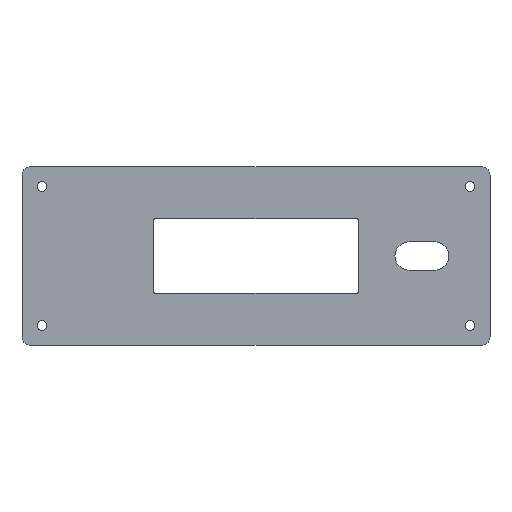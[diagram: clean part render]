
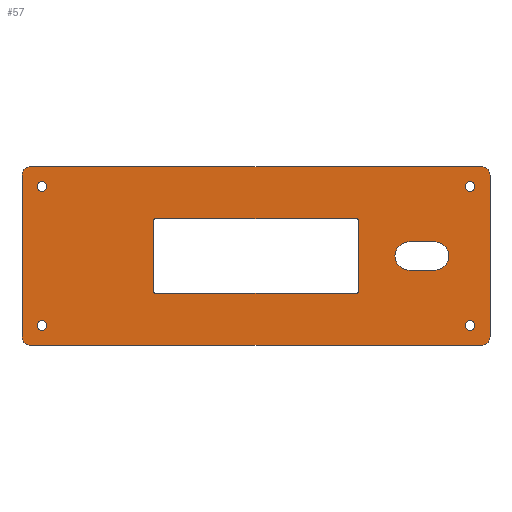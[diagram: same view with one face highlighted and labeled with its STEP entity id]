
A CAD part, top view. The second image highlights one B-rep face of the part: STEP entity #57.
In plain terms, the highlighted planar face has unit normal (0, 0, 1).
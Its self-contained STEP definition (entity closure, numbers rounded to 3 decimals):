
#21 = EDGE_CURVE('',#22,#24,#26,.T.);
#22 = VERTEX_POINT('',#23);
#23 = CARTESIAN_POINT('',(-2.5,0.5,54.5));
#24 = VERTEX_POINT('',#25);
#25 = CARTESIAN_POINT('',(-2.5,57.5,54.5));
#26 = LINE('',#27,#28);
#27 = CARTESIAN_POINT('',(-2.5,-2.5,54.5));
#28 = VECTOR('',#29,1.);
#29 = DIRECTION('',(-0.,1.,0.));
#57 = ADVANCED_FACE('',(#58,#119,#130,#141,#211,#247,#258),#269,.T.);
#58 = FACE_BOUND('',#59,.T.);
#59 = EDGE_LOOP('',(#60,#61,#70,#78,#87,#95,#104,#112));
#60 = ORIENTED_EDGE('',*,*,#21,.F.);
#61 = ORIENTED_EDGE('',*,*,#62,.T.);
#62 = EDGE_CURVE('',#22,#63,#65,.T.);
#63 = VERTEX_POINT('',#64);
#64 = CARTESIAN_POINT('',(0.5,-2.5,54.5));
#65 = CIRCLE('',#66,3.);
#66 = AXIS2_PLACEMENT_3D('',#67,#68,#69);
#67 = CARTESIAN_POINT('',(0.5,0.5,54.5));
#68 = DIRECTION('',(0.,0.,1.));
#69 = DIRECTION('',(0.,-1.,0.));
#70 = ORIENTED_EDGE('',*,*,#71,.T.);
#71 = EDGE_CURVE('',#63,#72,#74,.T.);
#72 = VERTEX_POINT('',#73);
#73 = CARTESIAN_POINT('',(159.5,-2.5,54.5));
#74 = LINE('',#75,#76);
#75 = CARTESIAN_POINT('',(-2.5,-2.5,54.5));
#76 = VECTOR('',#77,1.);
#77 = DIRECTION('',(1.,0.,-0.));
#78 = ORIENTED_EDGE('',*,*,#79,.F.);
#79 = EDGE_CURVE('',#80,#72,#82,.T.);
#80 = VERTEX_POINT('',#81);
#81 = CARTESIAN_POINT('',(162.5,0.5,54.5));
#82 = CIRCLE('',#83,3.);
#83 = AXIS2_PLACEMENT_3D('',#84,#85,#86);
#84 = CARTESIAN_POINT('',(159.5,0.5,54.5));
#85 = DIRECTION('',(-0.,-0.,-1.));
#86 = DIRECTION('',(0.,-1.,0.));
#87 = ORIENTED_EDGE('',*,*,#88,.T.);
#88 = EDGE_CURVE('',#80,#89,#91,.T.);
#89 = VERTEX_POINT('',#90);
#90 = CARTESIAN_POINT('',(162.5,57.5,54.5));
#91 = LINE('',#92,#93);
#92 = CARTESIAN_POINT('',(162.5,-2.5,54.5));
#93 = VECTOR('',#94,1.);
#94 = DIRECTION('',(-0.,1.,0.));
#95 = ORIENTED_EDGE('',*,*,#96,.T.);
#96 = EDGE_CURVE('',#89,#97,#99,.T.);
#97 = VERTEX_POINT('',#98);
#98 = CARTESIAN_POINT('',(159.5,60.5,54.5));
#99 = CIRCLE('',#100,3.);
#100 = AXIS2_PLACEMENT_3D('',#101,#102,#103);
#101 = CARTESIAN_POINT('',(159.5,57.5,54.5));
#102 = DIRECTION('',(0.,0.,1.));
#103 = DIRECTION('',(0.,-1.,0.));
#104 = ORIENTED_EDGE('',*,*,#105,.F.);
#105 = EDGE_CURVE('',#106,#97,#108,.T.);
#106 = VERTEX_POINT('',#107);
#107 = CARTESIAN_POINT('',(0.5,60.5,54.5));
#108 = LINE('',#109,#110);
#109 = CARTESIAN_POINT('',(-2.5,60.5,54.5));
#110 = VECTOR('',#111,1.);
#111 = DIRECTION('',(1.,0.,-0.));
#112 = ORIENTED_EDGE('',*,*,#113,.F.);
#113 = EDGE_CURVE('',#24,#106,#114,.T.);
#114 = CIRCLE('',#115,3.);
#115 = AXIS2_PLACEMENT_3D('',#116,#117,#118);
#116 = CARTESIAN_POINT('',(0.5,57.5,54.5));
#117 = DIRECTION('',(-0.,-0.,-1.));
#118 = DIRECTION('',(0.,-1.,0.));
#119 = FACE_BOUND('',#120,.T.);
#120 = EDGE_LOOP('',(#121));
#121 = ORIENTED_EDGE('',*,*,#122,.F.);
#122 = EDGE_CURVE('',#123,#123,#125,.T.);
#123 = VERTEX_POINT('',#124);
#124 = CARTESIAN_POINT('',(6.2,4.5,54.5));
#125 = CIRCLE('',#126,1.7);
#126 = AXIS2_PLACEMENT_3D('',#127,#128,#129);
#127 = CARTESIAN_POINT('',(4.5,4.5,54.5));
#128 = DIRECTION('',(0.,0.,1.));
#129 = DIRECTION('',(1.,0.,-0.));
#130 = FACE_BOUND('',#131,.T.);
#131 = EDGE_LOOP('',(#132));
#132 = ORIENTED_EDGE('',*,*,#133,.F.);
#133 = EDGE_CURVE('',#134,#134,#136,.T.);
#134 = VERTEX_POINT('',#135);
#135 = CARTESIAN_POINT('',(157.2,4.5,54.5));
#136 = CIRCLE('',#137,1.7);
#137 = AXIS2_PLACEMENT_3D('',#138,#139,#140);
#138 = CARTESIAN_POINT('',(155.5,4.5,54.5));
#139 = DIRECTION('',(0.,0.,1.));
#140 = DIRECTION('',(1.,0.,-0.));
#141 = FACE_BOUND('',#142,.T.);
#142 = EDGE_LOOP('',(#143,#154,#162,#171,#179,#188,#196,#205));
#143 = ORIENTED_EDGE('',*,*,#144,.F.);
#144 = EDGE_CURVE('',#145,#147,#149,.T.);
#145 = VERTEX_POINT('',#146);
#146 = CARTESIAN_POINT('',(43.7,16.8,54.5));
#147 = VERTEX_POINT('',#148);
#148 = CARTESIAN_POINT('',(44.7,15.8,54.5));
#149 = CIRCLE('',#150,1.);
#150 = AXIS2_PLACEMENT_3D('',#151,#152,#153);
#151 = CARTESIAN_POINT('',(44.7,16.8,54.5));
#152 = DIRECTION('',(0.,0.,1.));
#153 = DIRECTION('',(-1.,-0.,0.));
#154 = ORIENTED_EDGE('',*,*,#155,.T.);
#155 = EDGE_CURVE('',#145,#156,#158,.T.);
#156 = VERTEX_POINT('',#157);
#157 = CARTESIAN_POINT('',(43.7,41.2,54.5));
#158 = LINE('',#159,#160);
#159 = CARTESIAN_POINT('',(43.7,6.65,54.5));
#160 = VECTOR('',#161,1.);
#161 = DIRECTION('',(-0.,1.,0.));
#162 = ORIENTED_EDGE('',*,*,#163,.F.);
#163 = EDGE_CURVE('',#164,#156,#166,.T.);
#164 = VERTEX_POINT('',#165);
#165 = CARTESIAN_POINT('',(44.7,42.2,54.5));
#166 = CIRCLE('',#167,1.);
#167 = AXIS2_PLACEMENT_3D('',#168,#169,#170);
#168 = CARTESIAN_POINT('',(44.7,41.2,54.5));
#169 = DIRECTION('',(0.,0.,1.));
#170 = DIRECTION('',(-1.,-0.,0.));
#171 = ORIENTED_EDGE('',*,*,#172,.F.);
#172 = EDGE_CURVE('',#173,#164,#175,.T.);
#173 = VERTEX_POINT('',#174);
#174 = CARTESIAN_POINT('',(115.3,42.2,54.5));
#175 = LINE('',#176,#177);
#176 = CARTESIAN_POINT('',(20.6,42.2,54.5));
#177 = VECTOR('',#178,1.);
#178 = DIRECTION('',(-1.,-0.,0.));
#179 = ORIENTED_EDGE('',*,*,#180,.F.);
#180 = EDGE_CURVE('',#181,#173,#183,.T.);
#181 = VERTEX_POINT('',#182);
#182 = CARTESIAN_POINT('',(116.3,41.2,54.5));
#183 = CIRCLE('',#184,1.);
#184 = AXIS2_PLACEMENT_3D('',#185,#186,#187);
#185 = CARTESIAN_POINT('',(115.3,41.2,54.5));
#186 = DIRECTION('',(0.,0.,1.));
#187 = DIRECTION('',(1.,0.,-0.));
#188 = ORIENTED_EDGE('',*,*,#189,.F.);
#189 = EDGE_CURVE('',#190,#181,#192,.T.);
#190 = VERTEX_POINT('',#191);
#191 = CARTESIAN_POINT('',(116.3,16.8,54.5));
#192 = LINE('',#193,#194);
#193 = CARTESIAN_POINT('',(116.3,6.65,54.5));
#194 = VECTOR('',#195,1.);
#195 = DIRECTION('',(-0.,1.,0.));
#196 = ORIENTED_EDGE('',*,*,#197,.F.);
#197 = EDGE_CURVE('',#198,#190,#200,.T.);
#198 = VERTEX_POINT('',#199);
#199 = CARTESIAN_POINT('',(115.3,15.8,54.5));
#200 = CIRCLE('',#201,1.);
#201 = AXIS2_PLACEMENT_3D('',#202,#203,#204);
#202 = CARTESIAN_POINT('',(115.3,16.8,54.5));
#203 = DIRECTION('',(0.,0.,1.));
#204 = DIRECTION('',(1.,0.,-0.));
#205 = ORIENTED_EDGE('',*,*,#206,.T.);
#206 = EDGE_CURVE('',#198,#147,#207,.T.);
#207 = LINE('',#208,#209);
#208 = CARTESIAN_POINT('',(20.6,15.8,54.5));
#209 = VECTOR('',#210,1.);
#210 = DIRECTION('',(-1.,-0.,0.));
#211 = FACE_BOUND('',#212,.T.);
#212 = EDGE_LOOP('',(#213,#224,#232,#241));
#213 = ORIENTED_EDGE('',*,*,#214,.F.);
#214 = EDGE_CURVE('',#215,#217,#219,.T.);
#215 = VERTEX_POINT('',#216);
#216 = CARTESIAN_POINT('',(134.,34.,54.5));
#217 = VERTEX_POINT('',#218);
#218 = CARTESIAN_POINT('',(134.,24.,54.5));
#219 = CIRCLE('',#220,5.);
#220 = AXIS2_PLACEMENT_3D('',#221,#222,#223);
#221 = CARTESIAN_POINT('',(134.,29.,54.5));
#222 = DIRECTION('',(0.,0.,1.));
#223 = DIRECTION('',(1.,0.,-0.));
#224 = ORIENTED_EDGE('',*,*,#225,.F.);
#225 = EDGE_CURVE('',#226,#215,#228,.T.);
#226 = VERTEX_POINT('',#227);
#227 = CARTESIAN_POINT('',(143.,34.,54.5));
#228 = LINE('',#229,#230);
#229 = CARTESIAN_POINT('',(65.75,34.,54.5));
#230 = VECTOR('',#231,1.);
#231 = DIRECTION('',(-1.,-0.,0.));
#232 = ORIENTED_EDGE('',*,*,#233,.F.);
#233 = EDGE_CURVE('',#234,#226,#236,.T.);
#234 = VERTEX_POINT('',#235);
#235 = CARTESIAN_POINT('',(143.,24.,54.5));
#236 = CIRCLE('',#237,5.);
#237 = AXIS2_PLACEMENT_3D('',#238,#239,#240);
#238 = CARTESIAN_POINT('',(143.,29.,54.5));
#239 = DIRECTION('',(0.,0.,1.));
#240 = DIRECTION('',(1.,0.,-0.));
#241 = ORIENTED_EDGE('',*,*,#242,.T.);
#242 = EDGE_CURVE('',#234,#217,#243,.T.);
#243 = LINE('',#244,#245);
#244 = CARTESIAN_POINT('',(65.75,24.,54.5));
#245 = VECTOR('',#246,1.);
#246 = DIRECTION('',(-1.,-0.,0.));
#247 = FACE_BOUND('',#248,.T.);
#248 = EDGE_LOOP('',(#249));
#249 = ORIENTED_EDGE('',*,*,#250,.F.);
#250 = EDGE_CURVE('',#251,#251,#253,.T.);
#251 = VERTEX_POINT('',#252);
#252 = CARTESIAN_POINT('',(6.2,53.5,54.5));
#253 = CIRCLE('',#254,1.7);
#254 = AXIS2_PLACEMENT_3D('',#255,#256,#257);
#255 = CARTESIAN_POINT('',(4.5,53.5,54.5));
#256 = DIRECTION('',(0.,0.,1.));
#257 = DIRECTION('',(1.,0.,-0.));
#258 = FACE_BOUND('',#259,.T.);
#259 = EDGE_LOOP('',(#260));
#260 = ORIENTED_EDGE('',*,*,#261,.F.);
#261 = EDGE_CURVE('',#262,#262,#264,.T.);
#262 = VERTEX_POINT('',#263);
#263 = CARTESIAN_POINT('',(157.2,53.5,54.5));
#264 = CIRCLE('',#265,1.7);
#265 = AXIS2_PLACEMENT_3D('',#266,#267,#268);
#266 = CARTESIAN_POINT('',(155.5,53.5,54.5));
#267 = DIRECTION('',(0.,0.,1.));
#268 = DIRECTION('',(1.,0.,-0.));
#269 = PLANE('',#270);
#270 = AXIS2_PLACEMENT_3D('',#271,#272,#273);
#271 = CARTESIAN_POINT('',(-2.5,-2.5,54.5));
#272 = DIRECTION('',(0.,0.,1.));
#273 = DIRECTION('',(1.,0.,-0.));
